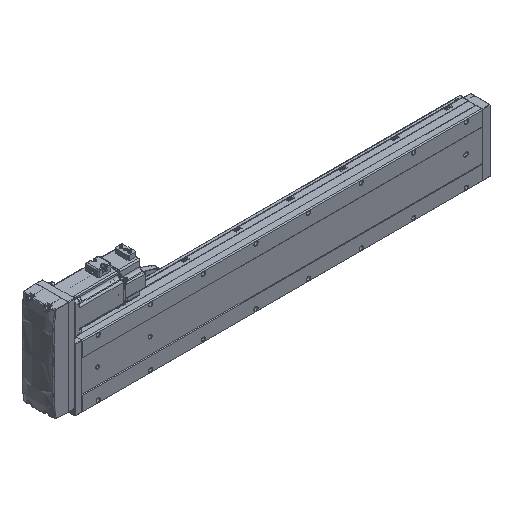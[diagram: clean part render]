
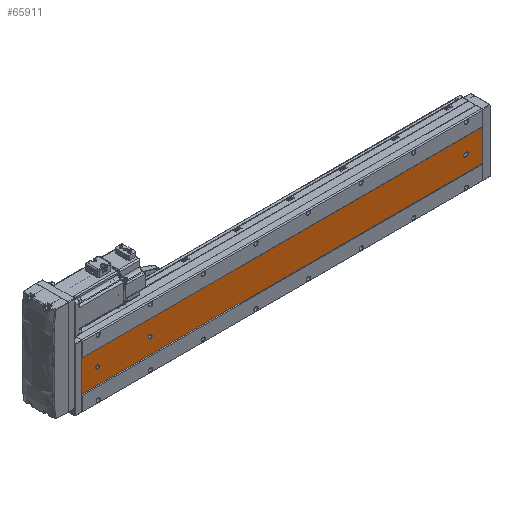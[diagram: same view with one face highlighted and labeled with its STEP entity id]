
A CAD part, isometric view. The second image highlights one B-rep face of the part: STEP entity #65911.
In plain terms, the highlighted planar face has unit normal (0, -1, 0).
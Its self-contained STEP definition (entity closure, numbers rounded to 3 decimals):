
#1416 = VECTOR ( 'NONE', #40291, 1000. ) ;
#3532 = ORIENTED_EDGE ( 'NONE', *, *, #42884, .T. ) ;
#3537 = ORIENTED_EDGE ( 'NONE', *, *, #32683, .T. ) ;
#4776 = ORIENTED_EDGE ( 'NONE', *, *, #88900, .T. ) ;
#5258 = EDGE_CURVE ( 'NONE', #70617, #20012, #77836, .T. ) ;
#6554 = DIRECTION ( 'NONE',  ( 0., 1., 0. ) ) ;
#6604 = CARTESIAN_POINT ( 'NONE',  ( -39.892, -52.848, 727.5 ) ) ;
#6722 = CARTESIAN_POINT ( 'NONE',  ( -69.892, -52.848, 0. ) ) ;
#7977 = CARTESIAN_POINT ( 'NONE',  ( -43.392, -52.848, 30. ) ) ;
#10312 = ORIENTED_EDGE ( 'NONE', *, *, #18346, .T. ) ;
#10518 = LINE ( 'NONE', #67313, #67157 ) ;
#11687 = VERTEX_POINT ( 'NONE', #20887 ) ;
#12822 = PLANE ( 'NONE',  #57122 ) ;
#13318 = FACE_BOUND ( 'NONE', #33245, .T. ) ;
#13701 = CARTESIAN_POINT ( 'NONE',  ( -39.892, -52.848, 634.5 ) ) ;
#14960 = EDGE_CURVE ( 'NONE', #90265, #26883, #10518, .T. ) ;
#15712 = DIRECTION ( 'NONE',  ( 0., 0., -1. ) ) ;
#16159 = DIRECTION ( 'NONE',  ( 0., 0., 1. ) ) ;
#17274 = ORIENTED_EDGE ( 'NONE', *, *, #105112, .T. ) ;
#18346 = EDGE_CURVE ( 'NONE', #101700, #55906, #44834, .T. ) ;
#18545 = CARTESIAN_POINT ( 'NONE',  ( -39.892, -52.848, 631. ) ) ;
#18766 = EDGE_CURVE ( 'NONE', #26883, #70617, #38312, .T. ) ;
#20012 = VERTEX_POINT ( 'NONE', #63944 ) ;
#20887 = CARTESIAN_POINT ( 'NONE',  ( -39.892, -52.848, 26.5 ) ) ;
#21533 = VERTEX_POINT ( 'NONE', #89317 ) ;
#21703 = VERTEX_POINT ( 'NONE', #58054 ) ;
#21987 = VECTOR ( 'NONE', #15712, 1000. ) ;
#22366 = DIRECTION ( 'NONE',  ( 0., 0., -1. ) ) ;
#24561 = LINE ( 'NONE', #47690, #21987 ) ;
#26883 = VERTEX_POINT ( 'NONE', #71892 ) ;
#28369 = CARTESIAN_POINT ( 'NONE',  ( -69.892, -52.848, 761. ) ) ;
#28966 = AXIS2_PLACEMENT_3D ( 'NONE', #36213, #61356, #35140 ) ;
#29893 = AXIS2_PLACEMENT_3D ( 'NONE', #71591, #6554, #88096 ) ;
#32485 = VERTEX_POINT ( 'NONE', #6722 ) ;
#32683 = EDGE_CURVE ( 'NONE', #21703, #68225, #96023, .T. ) ;
#33245 = EDGE_LOOP ( 'NONE', ( #10312, #17274 ) ) ;
#34098 = VECTOR ( 'NONE', #79935, 1000. ) ;
#35140 = DIRECTION ( 'NONE',  ( 0., 0., 1. ) ) ;
#36213 = CARTESIAN_POINT ( 'NONE',  ( -39.892, -52.848, 30. ) ) ;
#37622 = DIRECTION ( 'NONE',  ( 0., 1., 0. ) ) ;
#37805 = DIRECTION ( 'NONE',  ( 0., 1., 0. ) ) ;
#38312 = CIRCLE ( 'NONE', #100067, 3.5 ) ;
#40210 = EDGE_CURVE ( 'NONE', #21533, #80467, #86192, .T. ) ;
#40291 = DIRECTION ( 'NONE',  ( 1., 0., 0. ) ) ;
#42884 = EDGE_CURVE ( 'NONE', #11687, #90265, #44545, .T. ) ;
#43012 = AXIS2_PLACEMENT_3D ( 'NONE', #78040, #37805, #53652 ) ;
#44413 = DIRECTION ( 'NONE',  ( 1., 0., 0. ) ) ;
#44545 = CIRCLE ( 'NONE', #77588, 3.5 ) ;
#44834 = CIRCLE ( 'NONE', #43012, 3.5 ) ;
#47690 = CARTESIAN_POINT ( 'NONE',  ( -69.892, -52.848, 761. ) ) ;
#48031 = FACE_BOUND ( 'NONE', #68484, .T. ) ;
#48662 = CARTESIAN_POINT ( 'NONE',  ( -9.892, -52.848, 761. ) ) ;
#49129 = ORIENTED_EDGE ( 'NONE', *, *, #75582, .F. ) ;
#49272 = FACE_BOUND ( 'NONE', #80185, .T. ) ;
#52914 = DIRECTION ( 'NONE',  ( 0., 0., 1. ) ) ;
#53087 = CIRCLE ( 'NONE', #98759, 3.5 ) ;
#53294 = CARTESIAN_POINT ( 'NONE',  ( -9.892, -52.848, 0. ) ) ;
#53652 = DIRECTION ( 'NONE',  ( 0., 0., 1. ) ) ;
#54489 = CARTESIAN_POINT ( 'NONE',  ( -69.892, -52.848, 761. ) ) ;
#55906 = VERTEX_POINT ( 'NONE', #92580 ) ;
#56114 = CARTESIAN_POINT ( 'NONE',  ( -9.892, -52.848, 761. ) ) ;
#57122 = AXIS2_PLACEMENT_3D ( 'NONE', #54489, #71020, #70328 ) ;
#57969 = EDGE_CURVE ( 'NONE', #20012, #11687, #62429, .T. ) ;
#58054 = CARTESIAN_POINT ( 'NONE',  ( -39.892, -52.848, 627.5 ) ) ;
#61356 = DIRECTION ( 'NONE',  ( 0., 1., 0. ) ) ;
#61738 = AXIS2_PLACEMENT_3D ( 'NONE', #18545, #92552, #84276 ) ;
#62429 = CIRCLE ( 'NONE', #28966, 3.5 ) ;
#63944 = CARTESIAN_POINT ( 'NONE',  ( -36.392, -52.848, 30. ) ) ;
#65471 = CARTESIAN_POINT ( 'NONE',  ( -69.892, -52.848, 0. ) ) ;
#65911 = ADVANCED_FACE ( 'NONE', ( #49272, #48031, #13318, #81441 ), #12822, .F. ) ;
#67004 = VERTEX_POINT ( 'NONE', #53294 ) ;
#67157 = VECTOR ( 'NONE', #100248, 1000. ) ;
#67313 = CARTESIAN_POINT ( 'NONE',  ( -43.392, -52.848, 761. ) ) ;
#68225 = VERTEX_POINT ( 'NONE', #13701 ) ;
#68344 = VECTOR ( 'NONE', #22366, 1000. ) ;
#68484 = EDGE_LOOP ( 'NONE', ( #3537, #75916 ) ) ;
#68808 = ORIENTED_EDGE ( 'NONE', *, *, #75670, .T. ) ;
#70328 = DIRECTION ( 'NONE',  ( 0., 0., 1. ) ) ;
#70617 = VERTEX_POINT ( 'NONE', #82288 ) ;
#71020 = DIRECTION ( 'NONE',  ( 0., 1., 0. ) ) ;
#71591 = CARTESIAN_POINT ( 'NONE',  ( -39.892, -52.848, 731. ) ) ;
#71892 = CARTESIAN_POINT ( 'NONE',  ( -43.392, -52.848, 32. ) ) ;
#72604 = DIRECTION ( 'NONE',  ( 0., 1., 0. ) ) ;
#72707 = ORIENTED_EDGE ( 'NONE', *, *, #40210, .F. ) ;
#73546 = ORIENTED_EDGE ( 'NONE', *, *, #57969, .T. ) ;
#75582 = EDGE_CURVE ( 'NONE', #80467, #67004, #105505, .T. ) ;
#75670 = EDGE_CURVE ( 'NONE', #32485, #67004, #88783, .T. ) ;
#75916 = ORIENTED_EDGE ( 'NONE', *, *, #82176, .T. ) ;
#77588 = AXIS2_PLACEMENT_3D ( 'NONE', #87201, #37622, #95098 ) ;
#77836 = LINE ( 'NONE', #105004, #34098 ) ;
#78040 = CARTESIAN_POINT ( 'NONE',  ( -39.892, -52.848, 731. ) ) ;
#79935 = DIRECTION ( 'NONE',  ( 0., 0., -1. ) ) ;
#80185 = EDGE_LOOP ( 'NONE', ( #105198, #81588, #98374, #73546, #3532 ) ) ;
#80467 = VERTEX_POINT ( 'NONE', #48662 ) ;
#81441 = FACE_OUTER_BOUND ( 'NONE', #82272, .T. ) ;
#81588 = ORIENTED_EDGE ( 'NONE', *, *, #18766, .T. ) ;
#82176 = EDGE_CURVE ( 'NONE', #68225, #21703, #53087, .T. ) ;
#82272 = EDGE_LOOP ( 'NONE', ( #68808, #49129, #72707, #4776 ) ) ;
#82288 = CARTESIAN_POINT ( 'NONE',  ( -36.392, -52.848, 32. ) ) ;
#84276 = DIRECTION ( 'NONE',  ( 0., 0., 1. ) ) ;
#86192 = LINE ( 'NONE', #28369, #93930 ) ;
#86995 = CARTESIAN_POINT ( 'NONE',  ( -39.892, -52.848, 631. ) ) ;
#87201 = CARTESIAN_POINT ( 'NONE',  ( -39.892, -52.848, 30. ) ) ;
#88096 = DIRECTION ( 'NONE',  ( 0., 0., 1. ) ) ;
#88783 = LINE ( 'NONE', #65471, #1416 ) ;
#88900 = EDGE_CURVE ( 'NONE', #21533, #32485, #24561, .T. ) ;
#89317 = CARTESIAN_POINT ( 'NONE',  ( -69.892, -52.848, 761. ) ) ;
#89735 = CIRCLE ( 'NONE', #29893, 3.5 ) ;
#90265 = VERTEX_POINT ( 'NONE', #7977 ) ;
#92552 = DIRECTION ( 'NONE',  ( 0., 1., 0. ) ) ;
#92580 = CARTESIAN_POINT ( 'NONE',  ( -39.892, -52.848, 734.5 ) ) ;
#93930 = VECTOR ( 'NONE', #44413, 1000. ) ;
#95098 = DIRECTION ( 'NONE',  ( 0., 0., 1. ) ) ;
#95247 = DIRECTION ( 'NONE',  ( 0., 1., 0. ) ) ;
#96023 = CIRCLE ( 'NONE', #61738, 3.5 ) ;
#98374 = ORIENTED_EDGE ( 'NONE', *, *, #5258, .T. ) ;
#98759 = AXIS2_PLACEMENT_3D ( 'NONE', #86995, #95247, #52914 ) ;
#100067 = AXIS2_PLACEMENT_3D ( 'NONE', #105922, #72604, #16159 ) ;
#100248 = DIRECTION ( 'NONE',  ( 0., 0., 1. ) ) ;
#101700 = VERTEX_POINT ( 'NONE', #6604 ) ;
#105004 = CARTESIAN_POINT ( 'NONE',  ( -36.392, -52.848, 761. ) ) ;
#105112 = EDGE_CURVE ( 'NONE', #55906, #101700, #89735, .T. ) ;
#105198 = ORIENTED_EDGE ( 'NONE', *, *, #14960, .T. ) ;
#105505 = LINE ( 'NONE', #56114, #68344 ) ;
#105922 = CARTESIAN_POINT ( 'NONE',  ( -39.892, -52.848, 32. ) ) ;
